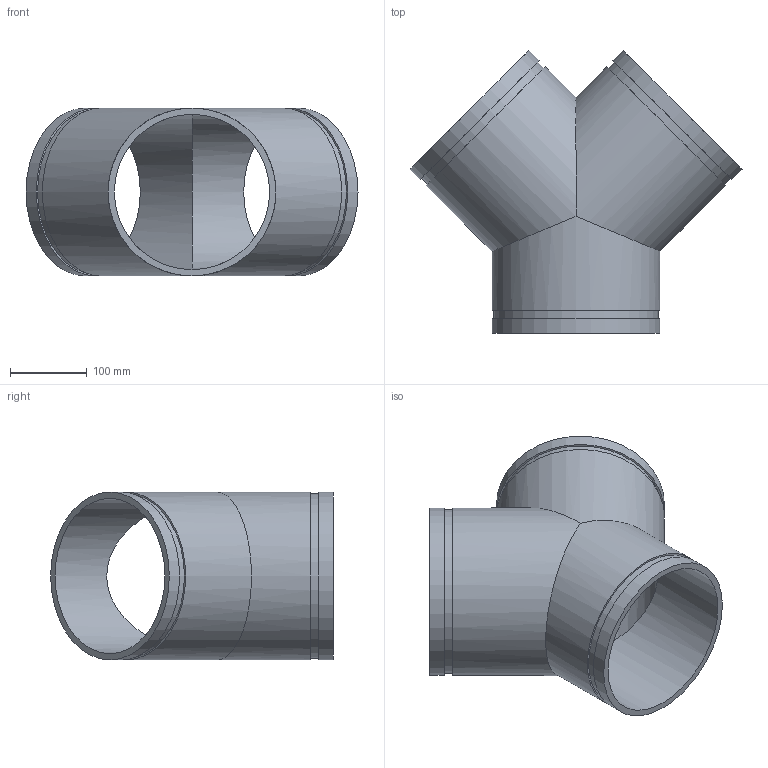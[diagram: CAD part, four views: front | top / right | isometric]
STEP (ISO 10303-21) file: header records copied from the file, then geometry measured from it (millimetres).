
FILE_DESCRIPTION(/* description */ ('This is default description.','CAx-IF Rec.Pracs.---Representation and Presentation of Product Manufacturing Information (PMI)---4.0---2014-10-13'),/* implementation_level */ '2;1');
FILE_NAME(/* name */ 'C:\Users\kkamble\AppData\Roaming\Autodesk\ApplicationPlugins\Back Up\Victaulic_IPS-Tee- Wye_ No 33 SWS (OGS)\Victaulic_IPS-Tee- Wye_ No 33 SWS (OGS)_8.stp',/* time_stamp */ '2020-09-16T22:08:27+06:00',/* author */ ('cgray'),/* organization */ ('Victaulic'),/* preprocessor_version */ 'ST-DEVELOPER v17.2',/* originating_system */ 'Autodesk Inventor 2019',/* authorisation */ '');
FILE_SCHEMA (('AP242_MANAGED_MODEL_BASED_3D_ENGINEERING_MIM_LF { 1 0 10303 442 1 1 4 }'));
Length unit declared in the file: inch
Products named in the file (1): 33 SWS-08.0
Bounding box: 433.3 x 369.05 x 219.07 mm (x, y, z)
Volume: 2240675.8 mm3; surface area: 586059.2 mm2
Topology: 1 solids, 1 shells, 21 faces, 48 edges, 34 vertices
Faces by surface type: cylinder 12, plane 9
Full cylindrical faces by diameter (mm): 202.717 x3, 214.401 x3, 219.075 x6
Entity records: 787 total; most frequent: DIRECTION 154, CARTESIAN_POINT 121, ORIENTED_EDGE 96, AXIS2_PLACEMENT_3D 71, EDGE_CURVE 48, VERTEX_POINT 34, EDGE_LOOP 30, CIRCLE 26
